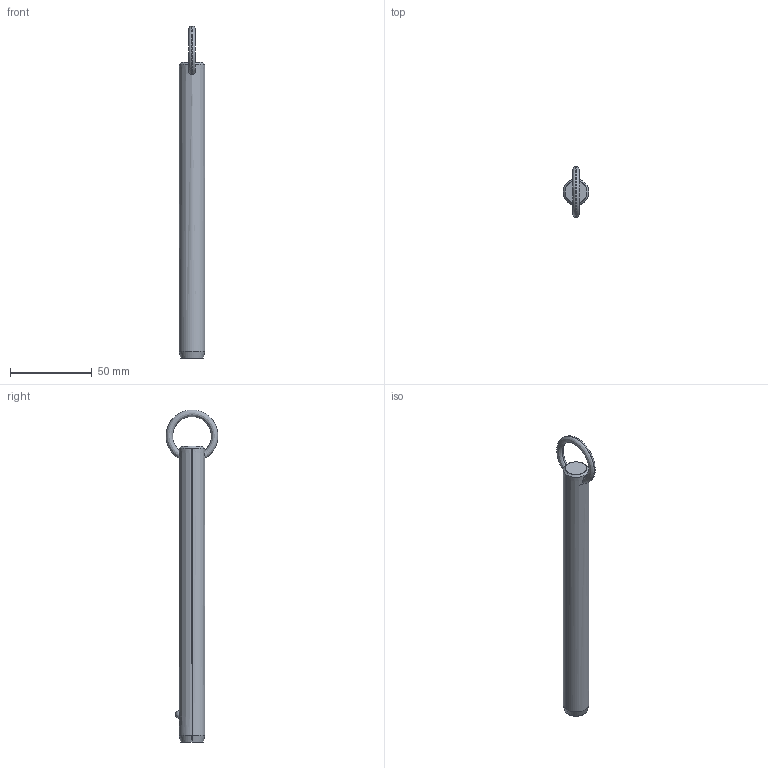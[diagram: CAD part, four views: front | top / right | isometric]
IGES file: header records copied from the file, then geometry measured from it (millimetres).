
Start section: SolidWorks IGES file using analytic representation for surfaces
Global section: file name: C:\Users\liam_\OneDrive\Documents\WORK\Work for WixRoyd\Job Files\J-00019 - Matt Davis CAD Checking\04. CAD Drawings\automotion20190605\P1250.2_v2\P1250.2_v2_20190729_IGES\P1250.062-600.igs; native system: SolidWorks 2017; preprocessor: SolidWorks 2017; author: liam_; date: 190729.234136; units: millimetre
Bounding box: 15.8 x 31.69 x 203.1 mm (x, y, z)
Surface area: 10153.2 mm2 (no closed solid volume)
Topology: 0 solids, 0 shells, 12 faces, 292 edges, 290 vertices
Faces by surface type: revolution 8, bspline 4
